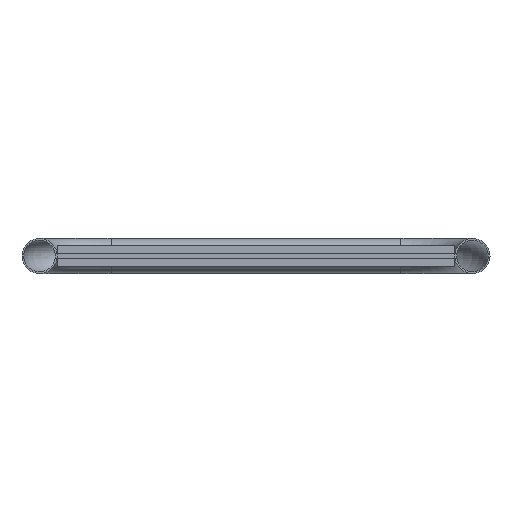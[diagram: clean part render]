
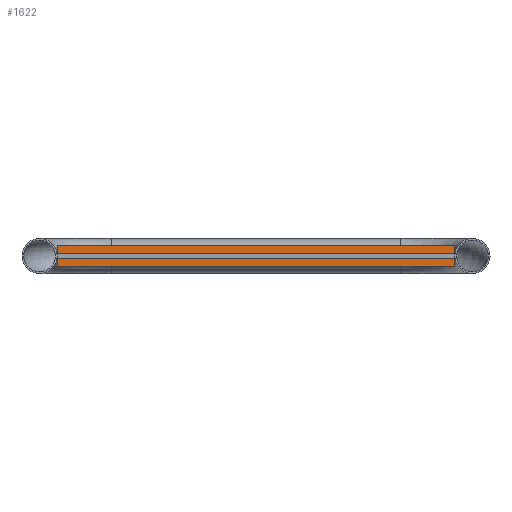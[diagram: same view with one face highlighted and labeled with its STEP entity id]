
A CAD part, front view. The second image highlights one B-rep face of the part: STEP entity #1622.
In plain terms, the highlighted planar face has unit normal (0, -1, 0).
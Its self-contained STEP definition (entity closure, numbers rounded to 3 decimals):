
#1492=CARTESIAN_POINT('',(-12.5,0.,480.6));
#1493=VERTEX_POINT('',#1492);
#1510=CARTESIAN_POINT('',(-12.5,0.,0.0));
#1511=VERTEX_POINT('',#1510);
#1518=CARTESIAN_POINT('',(-12.5,0.,0.0));
#1519=DIRECTION('',(0.0,0.0,1.0));
#1520=VECTOR('',#1519,480.6);
#1521=LINE('',#1518,#1520);
#1522=EDGE_CURVE('',#1511,#1493,#1521,.T.);
#1575=CARTESIAN_POINT('',(12.5,0.,480.6));
#1576=VERTEX_POINT('',#1575);
#1583=CARTESIAN_POINT('',(12.5,0.,0.0));
#1584=VERTEX_POINT('',#1583);
#1585=CARTESIAN_POINT('',(12.5,0.,0.0));
#1586=DIRECTION('',(0.0,0.0,1.0));
#1587=VECTOR('',#1586,480.6);
#1588=LINE('',#1585,#1587);
#1589=EDGE_CURVE('',#1584,#1576,#1588,.T.);
#1601=CARTESIAN_POINT('',(12.5,0.,0.0));
#1602=DIRECTION('',(0.0,-1.0,0.0));
#1603=DIRECTION('',(0.0,0.0,-1.0));
#1604=AXIS2_PLACEMENT_3D('',#1601,#1602,#1603);
#1605=PLANE('',#1604);
#1606=CARTESIAN_POINT('',(12.5,0.,480.6));
#1607=DIRECTION('',(-1.0,0.0,0.0));
#1608=VECTOR('',#1607,25.0);
#1609=LINE('',#1606,#1608);
#1610=EDGE_CURVE('',#1576,#1493,#1609,.T.);
#1611=ORIENTED_EDGE('',*,*,#1610,.T.);
#1612=ORIENTED_EDGE('',*,*,#1522,.F.);
#1613=CARTESIAN_POINT('',(-12.5,0.,0.0));
#1614=DIRECTION('',(1.0,0.0,0.0));
#1615=VECTOR('',#1614,25.0);
#1616=LINE('',#1613,#1615);
#1617=EDGE_CURVE('',#1511,#1584,#1616,.T.);
#1618=ORIENTED_EDGE('',*,*,#1617,.T.);
#1619=ORIENTED_EDGE('',*,*,#1589,.T.);
#1620=EDGE_LOOP('',(#1611,#1612,#1618,#1619));
#1621=FACE_OUTER_BOUND('',#1620,.T.);
#1622=ADVANCED_FACE('',(#1621),#1605,.T.);
